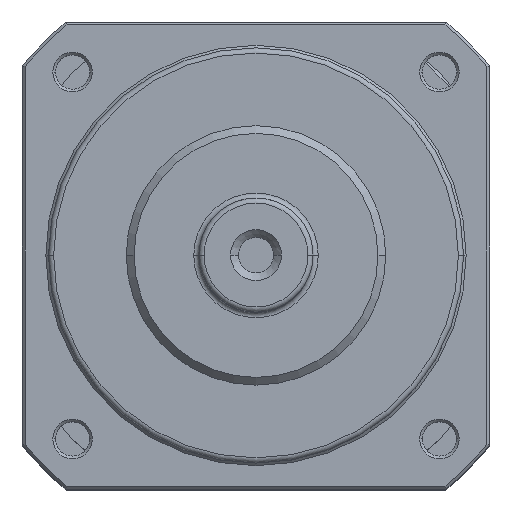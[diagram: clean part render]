
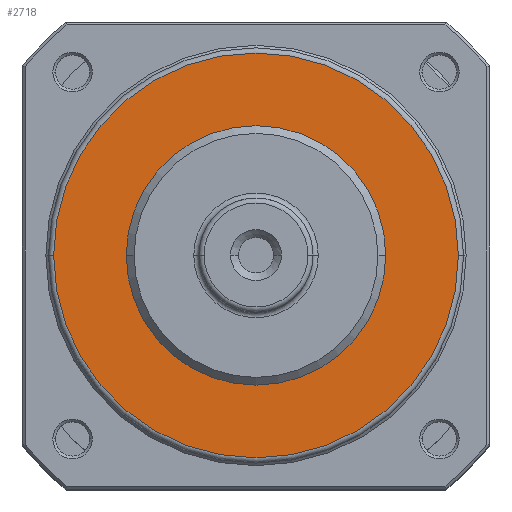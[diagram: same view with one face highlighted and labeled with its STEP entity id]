
A CAD part, top view. The second image highlights one B-rep face of the part: STEP entity #2718.
In plain terms, the highlighted planar face has unit normal (0, 0, 1).
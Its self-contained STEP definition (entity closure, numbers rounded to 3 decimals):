
#101 = CARTESIAN_POINT ( 'NONE',  ( 25., 0., 18. ) ) ;
#260 = AXIS2_PLACEMENT_3D ( 'NONE', #4360, #2385, #5160 ) ;
#299 = DIRECTION ( 'NONE',  ( 1., 0., 0. ) ) ;
#352 = AXIS2_PLACEMENT_3D ( 'NONE', #3082, #1044, #299 ) ;
#581 = CIRCLE ( 'NONE', #260, 25. ) ;
#626 = DIRECTION ( 'NONE',  ( 0., 0., 1. ) ) ;
#741 = DIRECTION ( 'NONE',  ( 0., 0., 1. ) ) ;
#821 = AXIS2_PLACEMENT_3D ( 'NONE', #4980, #4998, #989 ) ;
#934 = EDGE_CURVE ( 'NONE', #4457, #4397, #3365, .T. ) ;
#989 = DIRECTION ( 'NONE',  ( 1., 0., 0. ) ) ;
#1023 = CARTESIAN_POINT ( 'NONE',  ( 39., 0., 18. ) ) ;
#1044 = DIRECTION ( 'NONE',  ( 0., 0., 1. ) ) ;
#1140 = DIRECTION ( 'NONE',  ( 1., 0., 0. ) ) ;
#1294 = CARTESIAN_POINT ( 'NONE',  ( -25., 0., 18. ) ) ;
#1337 = FACE_OUTER_BOUND ( 'NONE', #3352, .T. ) ;
#1364 = CARTESIAN_POINT ( 'NONE',  ( -39., 0., 18. ) ) ;
#2319 = DIRECTION ( 'NONE',  ( 1., 0., 0. ) ) ;
#2385 = DIRECTION ( 'NONE',  ( 0., 0., 1. ) ) ;
#2630 = ORIENTED_EDGE ( 'NONE', *, *, #3961, .T. ) ;
#2637 = PLANE ( 'NONE',  #3735 ) ;
#2718 = ADVANCED_FACE ( 'NONE', ( #1337, #4147 ), #2637, .T. ) ;
#2759 = CARTESIAN_POINT ( 'NONE',  ( 0., 0., 18. ) ) ;
#2898 = EDGE_CURVE ( 'NONE', #4960, #4931, #3774, .T. ) ;
#2922 = EDGE_CURVE ( 'NONE', #4931, #4960, #581, .T. ) ;
#3030 = CARTESIAN_POINT ( 'NONE',  ( 0., 0., 18. ) ) ;
#3082 = CARTESIAN_POINT ( 'NONE',  ( 0., 0., 18. ) ) ;
#3352 = EDGE_LOOP ( 'NONE', ( #2630, #4256 ) ) ;
#3365 = CIRCLE ( 'NONE', #352, 39. ) ;
#3627 = ORIENTED_EDGE ( 'NONE', *, *, #2898, .F. ) ;
#3735 = AXIS2_PLACEMENT_3D ( 'NONE', #3030, #626, #2319 ) ;
#3774 = CIRCLE ( 'NONE', #4201, 25. ) ;
#3961 = EDGE_CURVE ( 'NONE', #4397, #4457, #4658, .T. ) ;
#4118 = EDGE_LOOP ( 'NONE', ( #5155, #3627 ) ) ;
#4147 = FACE_BOUND ( 'NONE', #4118, .T. ) ;
#4201 = AXIS2_PLACEMENT_3D ( 'NONE', #2759, #741, #1140 ) ;
#4256 = ORIENTED_EDGE ( 'NONE', *, *, #934, .T. ) ;
#4360 = CARTESIAN_POINT ( 'NONE',  ( 0., 0., 18. ) ) ;
#4397 = VERTEX_POINT ( 'NONE', #1023 ) ;
#4457 = VERTEX_POINT ( 'NONE', #1364 ) ;
#4658 = CIRCLE ( 'NONE', #821, 39. ) ;
#4931 = VERTEX_POINT ( 'NONE', #1294 ) ;
#4960 = VERTEX_POINT ( 'NONE', #101 ) ;
#4980 = CARTESIAN_POINT ( 'NONE',  ( 0., 0., 18. ) ) ;
#4998 = DIRECTION ( 'NONE',  ( 0., 0., 1. ) ) ;
#5155 = ORIENTED_EDGE ( 'NONE', *, *, #2922, .F. ) ;
#5160 = DIRECTION ( 'NONE',  ( 1., 0., 0. ) ) ;
